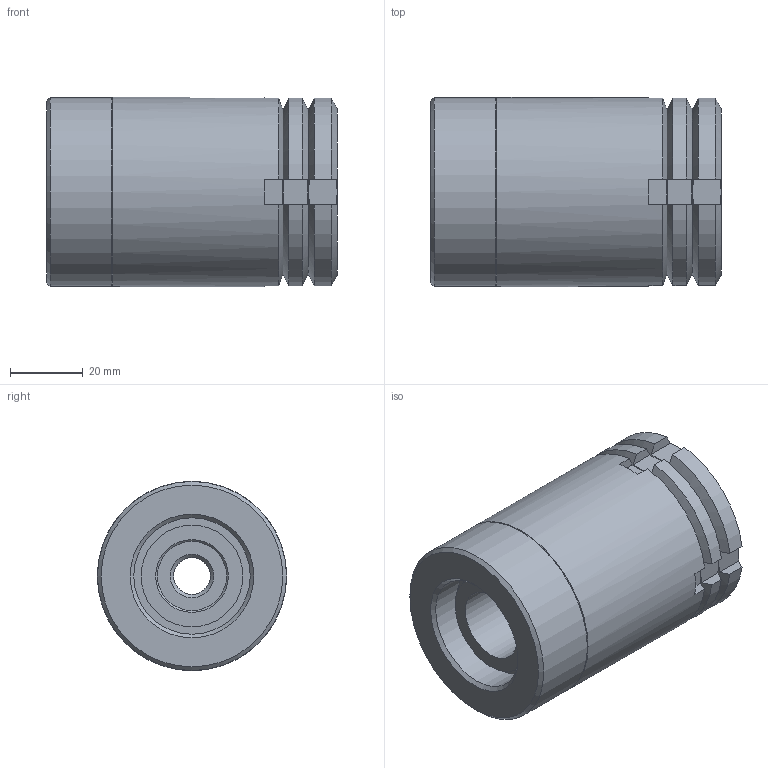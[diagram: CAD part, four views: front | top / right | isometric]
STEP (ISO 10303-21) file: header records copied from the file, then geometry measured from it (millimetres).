
FILE_DESCRIPTION( ( 'STEP AP203' ), '1' );
FILE_NAME( 'C:/Temp/Ganter_Step_05_03_2020/data/3_2/gn360/gn360_st/Levelling set GN 360-52-M12-103-B-ST (0-0).stp', '2020-03-13T05:41:55', ( 'License CC BY-ND 4.0' ), ( 'CADENAS' ), ' ', 'PARTsolutions', ' ' );
FILE_SCHEMA( ( 'CONFIG_CONTROL_DESIGN' ) );
Length unit declared in the file: millimetre
Products named in the file (5): Levelling set GN 360-52-M12-103-B-ST (0-0); _Levelling set GN 360-52-M12-103-B-ST (0-0)-1; _Levelling set GN 360-52-M12-103-B-ST (0-0)-2; _Levelling set GN 360-52-M12-103-B-ST (0-0)-4; _Levelling set GN 360-52-M12-103-B-ST (0-0)-3
Assembly tree (4 placements, depth 2):
  Levelling set GN 360-52-M12-103-B-ST (0-0)
    _Levelling set GN 360-52-M12-103-B-ST (0-0)-1
    _Levelling set GN 360-52-M12-103-B-ST (0-0)-2
    _Levelling set GN 360-52-M12-103-B-ST (0-0)-4
    _Levelling set GN 360-52-M12-103-B-ST (0-0)-3
Bounding box: 80 x 52 x 52 mm (x, y, z)
Volume: 142546.9 mm3; surface area: 43140.6 mm2
Topology: 4 solids, 4 shells, 95 faces, 229 edges, 148 vertices
Faces by surface type: plane 54, cylinder 22, cone 16, sphere 2, torus 1
Full cylindrical faces by diameter (mm): 10.106 x1, 19 x1, 20 x1, 22.5 x1, 27 x1, 28 x1, 32 x1, 34 x1, 34.376 x2, 36 x1, 36.5 x1, 52 x2
Entity records: 2908 total; most frequent: CARTESIAN_POINT 752, DIRECTION 396, ORIENTED_EDGE 376, EDGE_CURVE 188, AXIS2_PLACEMENT_3D 168, EDGE_LOOP 142, VERTEX_POINT 140, FACE_OUTER_BOUND 112
